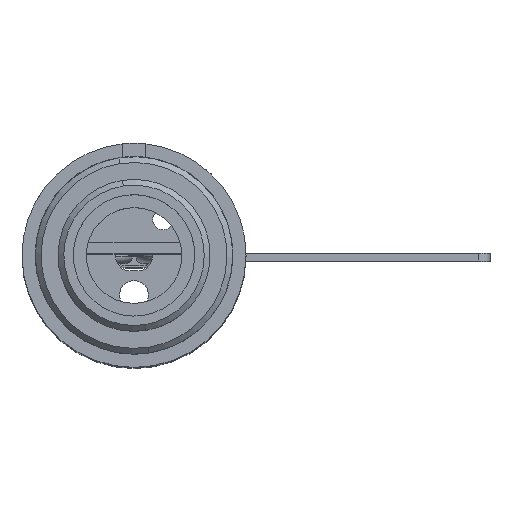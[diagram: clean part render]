
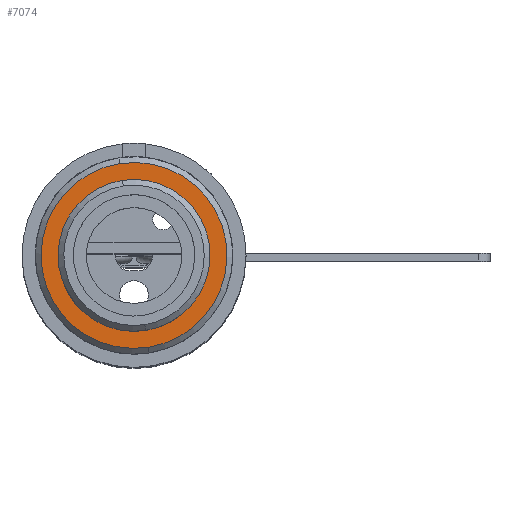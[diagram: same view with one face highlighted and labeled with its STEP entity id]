
A CAD part, top view. The second image highlights one B-rep face of the part: STEP entity #7074.
In plain terms, the highlighted planar face has unit normal (0, 0, 1).
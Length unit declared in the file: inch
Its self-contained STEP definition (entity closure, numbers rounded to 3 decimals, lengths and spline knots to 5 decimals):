
#640 = CIRCLE ( 'NONE', #6645, 0.241 ) ;
#697 = AXIS2_PLACEMENT_3D ( 'NONE', #5832, #1532, #3691 ) ;
#1009 = CIRCLE ( 'NONE', #7029, 0.197 ) ;
#1197 = PLANE ( 'NONE',  #8923 ) ;
#1237 = VERTEX_POINT ( 'NONE', #9485 ) ;
#1532 = DIRECTION ( 'NONE',  ( 0., 0., 1. ) ) ;
#1674 = VERTEX_POINT ( 'NONE', #7013 ) ;
#1924 = DIRECTION ( 'NONE',  ( 0., 0., -1. ) ) ;
#2095 = ORIENTED_EDGE ( 'NONE', *, *, #4846, .F. ) ;
#2785 = DIRECTION ( 'NONE',  ( 0.153, -0.988, 0. ) ) ;
#3154 = VERTEX_POINT ( 'NONE', #4656 ) ;
#3181 = FACE_OUTER_BOUND ( 'NONE', #6470, .T. ) ;
#3326 = FACE_BOUND ( 'NONE', #6875, .T. ) ;
#3691 = DIRECTION ( 'NONE',  ( 0.153, -0.988, 0. ) ) ;
#3762 = CARTESIAN_POINT ( 'NONE',  ( 0.03694, -0.23815, 0.518 ) ) ;
#3933 = EDGE_CURVE ( 'NONE', #6942, #1237, #4374, .T. ) ;
#4374 = CIRCLE ( 'NONE', #697, 0.241 ) ;
#4656 = CARTESIAN_POINT ( 'NONE',  ( 0.0302, -0.19467, 0.518 ) ) ;
#4846 = EDGE_CURVE ( 'NONE', #3154, #1674, #1009, .T. ) ;
#4871 = DIRECTION ( 'NONE',  ( 0., 0., 1. ) ) ;
#4989 = DIRECTION ( 'NONE',  ( 0.153, -0.988, 0. ) ) ;
#4999 = CARTESIAN_POINT ( 'NONE',  ( 0., 0., 0.518 ) ) ;
#5292 = CARTESIAN_POINT ( 'NONE',  ( 0., 0., 0.518 ) ) ;
#5832 = CARTESIAN_POINT ( 'NONE',  ( 0., 0., 0.518 ) ) ;
#6351 = CARTESIAN_POINT ( 'NONE',  ( 0., 0., 0.518 ) ) ;
#6377 = DIRECTION ( 'NONE',  ( 0.153, -0.988, 0. ) ) ;
#6470 = EDGE_LOOP ( 'NONE', ( #9010, #8741 ) ) ;
#6645 = AXIS2_PLACEMENT_3D ( 'NONE', #8548, #4871, #6377 ) ;
#6666 = DIRECTION ( 'NONE',  ( 0.153, -0.988, 0. ) ) ;
#6875 = EDGE_LOOP ( 'NONE', ( #2095, #9199 ) ) ;
#6942 = VERTEX_POINT ( 'NONE', #3762 ) ;
#7013 = CARTESIAN_POINT ( 'NONE',  ( -0.0302, 0.19467, 0.518 ) ) ;
#7029 = AXIS2_PLACEMENT_3D ( 'NONE', #5292, #8781, #6666 ) ;
#7074 = ADVANCED_FACE ( 'NONE', ( #3181, #3326 ), #1197, .F. ) ;
#7350 = CIRCLE ( 'NONE', #9544, 0.197 ) ;
#7359 = EDGE_CURVE ( 'NONE', #1674, #3154, #7350, .T. ) ;
#8446 = EDGE_CURVE ( 'NONE', #1237, #6942, #640, .T. ) ;
#8548 = CARTESIAN_POINT ( 'NONE',  ( 0., 0., 0.518 ) ) ;
#8741 = ORIENTED_EDGE ( 'NONE', *, *, #8446, .T. ) ;
#8781 = DIRECTION ( 'NONE',  ( 0., 0., 1. ) ) ;
#8923 = AXIS2_PLACEMENT_3D ( 'NONE', #4999, #1924, #2785 ) ;
#9010 = ORIENTED_EDGE ( 'NONE', *, *, #3933, .T. ) ;
#9199 = ORIENTED_EDGE ( 'NONE', *, *, #7359, .F. ) ;
#9405 = DIRECTION ( 'NONE',  ( 0., 0., 1. ) ) ;
#9485 = CARTESIAN_POINT ( 'NONE',  ( -0.03694, 0.23815, 0.518 ) ) ;
#9544 = AXIS2_PLACEMENT_3D ( 'NONE', #6351, #9405, #4989 ) ;
